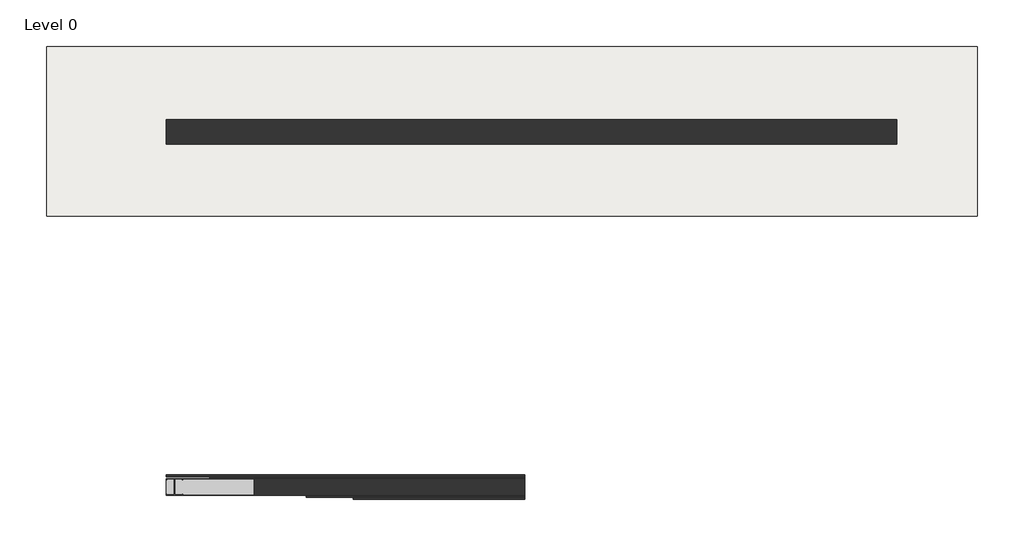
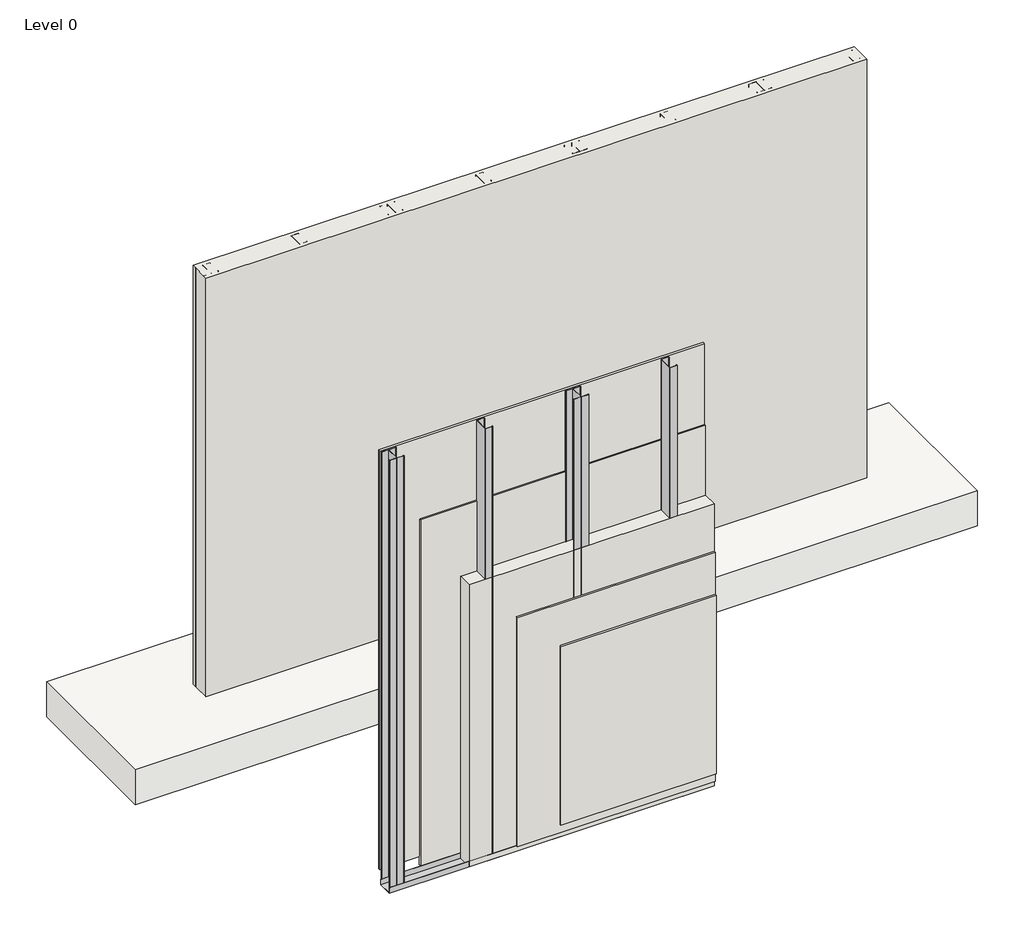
# One storey: 4 proxies, 2 walls, 1 slab.
"""IFC4 building model written with IfcOpenShell, lengths in millimetres."""

from ifc_helpers import new_model, si_unit, frame, origin, origin_with_axes, place, context, project, spatial, polyline, outline, extrude, transform, mapped, element, save
from components import generic_models_5ab04f61, generic_models_c0b83f98, horizontal_u_profile_100mm_horizontal_u_profile_100mm_0573b685, horizontal_u_profile_100mm_horizontal_u_profile_100mm_49c979f2

model = new_model("IFC4")

# Units and contexts
model_context = context("Model", 3, world=origin())
ifc_project = project(units=[si_unit("LENGTHUNIT", "METRE", prefix="MILLI")], contexts=[model_context])

# Site, building, storey
site = spatial("IfcSite", under=ifc_project)
building = spatial("IfcBuilding", under=site)
storey = spatial("IfcBuildingStorey", under=building, Name="Level 0", Elevation=0.0)

# Proxies
placement = place(None, origin())
generic_models_shape = generic_models_5ab04f61(model_context)
element("IfcBuildingElementProxy", 1, Name="C and 2xCprofile 100mm : C and 2xCprofile 100mm 2", ObjectType="C and 2xCprofile 100mm : C and 2xCprofile 100mm 2", at=placement, inside=storey, context=model_context, shape_type="MappedRepresentation", body=[
    mapped(generic_models_shape, transform((23165.0987507, 716.4643687, 0.0), x_axis=(1.0, 0.0, 0.0), y_axis=(0.0, 0.0, 1.0), z_axis=(0.0, -1.0, 0.0))),
])
generic_models_2_shape = generic_models_c0b83f98(model_context)
element("IfcBuildingElementProxy", 2, Name="C and 2xCprofile 100mm : C and 2xCprofile 100mm", ObjectType="C and 2xCprofile 100mm : C and 2xCprofile 100mm", at=placement, inside=storey, context=model_context, shape_type="MappedRepresentation", body=[
    mapped(generic_models_2_shape, transform((23165.0987507, -1463.5356313, -60.0), x_axis=(1.0, 0.0, 0.0), y_axis=(0.0, 0.0, 1.0), z_axis=(0.0, -1.0, 0.0))),
])
horizontal_u_profile_100mm_horizontal_u_profile_100mm_shape = horizontal_u_profile_100mm_horizontal_u_profile_100mm_0573b685(model_context)
element("IfcBuildingElementProxy", 3, Name="Horizontal U profile 100mm : Horizontal U profile 100mm", ObjectType="Horizontal U profile 100mm : Horizontal U profile 100mm", at=placement, inside=storey, context=model_context, shape_type="MappedRepresentation", body=[
    mapped(horizontal_u_profile_100mm_horizontal_u_profile_100mm_shape, transform((23088.6899394, 716.446811, -100.0), x_axis=(1.0, 0.0, 0.0), y_axis=(0.0, 1.0, 0.0), z_axis=(0.0, 0.0, 1.0))),
])
horizontal_u_profile_100mm_horizontal_u_profile_100mm_2_shape = horizontal_u_profile_100mm_horizontal_u_profile_100mm_49c979f2(model_context)
element("IfcBuildingElementProxy", 4, Name="Horizontal U profile 100mm : Horizontal U profile 100mm", ObjectType="Horizontal U profile 100mm : Horizontal U profile 100mm", at=placement, inside=storey, context=model_context, shape_type="MappedRepresentation", body=[
    mapped(horizontal_u_profile_100mm_horizontal_u_profile_100mm_2_shape, transform((23088.6899394, -1463.553189, -100.0), x_axis=(1.0, 0.0, 0.0), y_axis=(0.0, 1.0, 0.0), z_axis=(0.0, 0.0, 1.0))),
])

# Slab
element("IfcSlab", 5, ObjectType="Floor-Jendy_Joss", at=placement, inside=storey, context=model_context, shape_type="SweptSolid", body=[
    extrude(outline(polyline([(28065.0987507, 1240.8230902), (28065.0987507, 200.8230902), (22355.9321658, 200.8230902), (22355.9321658, 1240.8230902), (28065.0987507, 1240.8230902)])), frame((0.0, 0.0, -250.0), z_axis=(0.0, 0.0, 1.0), x_axis=(1.0, 0.0, 0.0)), (0.0, 0.0, 1.0), 250.0),
])

# Walls
element("IfcWall", 6, ObjectType="Interior Wall_Modulo_JJ_I100cg", at=placement, inside=storey, context=model_context, shape_type="SweptSolid", body=[
    extrude(outline(polyline([(27569.653778, 641.4643687), (23089.653778, 641.4643687), (23089.653778, 791.4643687), (27569.653778, 791.4643687), (27569.653778, 641.4643687)])), origin_with_axes(), (0.0, 0.0, 1.0), 3000.0),
])
element("IfcWall", 7, ObjectType="Interior Wall_Modulo_JJ_I100cg", at=placement, inside=storey, context=model_context, shape_type="SweptSolid", body=[
    extrude(outline(polyline([(23089.653778, -1388.5356313), (25289.653778, -1388.5356313), (25289.653778, -1401.5356313), (23089.653778, -1401.5356313), (23089.653778, -1388.5356313)])), origin_with_axes(), (0.0, 0.0, 1.0), 3000.0),
    extrude(outline(polyline([(25289.653778, -1538.5356313), (24237.450025, -1538.5356313), (24237.450025, -1525.5356313), (25289.653778, -1525.5356313), (25289.653778, -1538.5356313)])), origin_with_axes(), (0.0, 0.0, 1.0), 1280.0),
    extrude(outline(polyline([(23629.653778, -1513.5356313), (23629.653778, -1413.5356313), (25289.653778, -1413.5356313), (25289.653778, -1513.5356313), (23629.653778, -1513.5356313)])), frame((0.0, 0.0, -99.2), z_axis=(0.0, 0.0, 1.0), x_axis=(1.0, 0.0, 0.0)), (0.0, 0.0, 1.0), 2019.2),
    extrude(outline(polyline([(23949.653778, -1525.5356313), (23949.653778, -1513.5356313), (25289.653778, -1513.5356313), (25289.653778, -1525.5356313), (23949.653778, -1525.5356313)])), frame((0.0, 0.0, -60.0), z_axis=(0.0, 0.0, 1.0), x_axis=(1.0, 0.0, 0.0)), (0.0, 0.0, 1.0), 1640.0),
    extrude(outline(polyline([(23358.1368417, -1413.5356313), (23358.1368417, -1401.5356313), (25289.653778, -1401.5356313), (25289.653778, -1413.5356313), (23358.1368417, -1413.5356313)])), frame((0.0, 0.0, -60.0), z_axis=(0.0, 0.0, 1.0), x_axis=(1.0, 0.0, 0.0)), (0.0, 0.0, 1.0), 2480.0),
])

save(model, "model.ifc")
